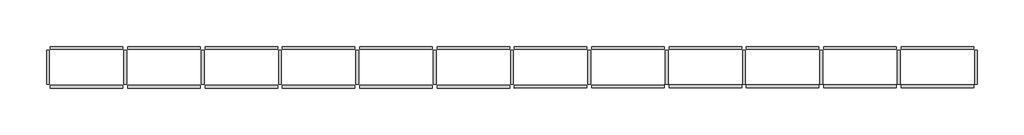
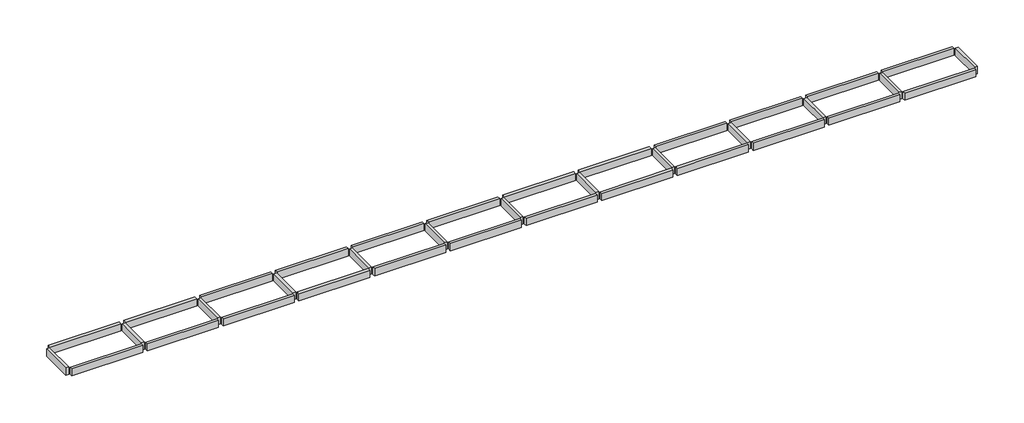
# One storey: 21 beams.
"""IFC4 building model written with IfcOpenShell, lengths in millimetres."""

import ifcopenshell
import ifcopenshell.guid

model = None  # the IFC model being written
_history = None  # IfcOwnerHistory: only IFC2X3 demands one
_inside = {}  # id of a spatial element -> (the spatial element, [elements in it])
_under = {}  # id of a project, library or spatial element -> (it, [spatial elements below it])
_declared = {}  # id of a project -> (the project, [libraries it declares])
_typed = {}  # id of a type object -> (the type object, [elements of that type])
_made_of = {}  # id of a material, layer set ... -> (it, [elements and type objects made of it])


def new_model(schema):
    """Start an empty IFC model of exactly this schema.

    Asked for "IFC4X3", IfcOpenShell would pick the latest addendum, in which some entities
    have other attributes; the version numbers below select the first issue.
    IFC2X3 requires an IfcOwnerHistory on every rooted entity: one is made here for all.
    """
    global model, _history
    if schema == "IFC4X3":
        model = ifcopenshell.file(schema_version=(4, 3, 0, 0))
    else:
        model = ifcopenshell.file(schema=schema)
    _inside.clear()
    _under.clear()
    _declared.clear()
    _typed.clear()
    _made_of.clear()
    _history = None
    if model.schema == "IFC2X3":
        org = make("IfcOrganization", Name="unknown")
        user = make(
            "IfcPersonAndOrganization",
            ThePerson=make("IfcPerson", FamilyName="unknown"),
            TheOrganization=org,
        )
        app = make(
            "IfcApplication",
            ApplicationDeveloper=org,
            Version="unknown",
            ApplicationFullName="unknown",
            ApplicationIdentifier="unknown",
        )
        _history = make(
            "IfcOwnerHistory",
            OwningUser=user,
            OwningApplication=app,
            ChangeAction="ADDED",
            CreationDate=0,
        )
    return model


def make(cls, **values):
    """One entity of the class cls with the attributes given. An attribute that is None is left unset."""
    return model.create_entity(
        cls, **{name: value for name, value in values.items() if value is not None}
    )


def rooted(cls, **values):
    """An entity with a GlobalId (a new one), such as an element, a storey or a relation."""
    return make(cls, GlobalId=ifcopenshell.guid.new(), OwnerHistory=_history, **values)


def si_unit(unit_type, name, prefix=None):
    """IfcSIUnit, for example si_unit("LENGTHUNIT", "METRE", prefix="MILLI")."""
    return make("IfcSIUnit", UnitType=unit_type, Prefix=prefix, Name=name)


def assignment(units):
    """IfcUnitAssignment: the units of a project."""
    return None if units is None else make("IfcUnitAssignment", Units=units)


def point(xyz):
    """IfcCartesianPoint."""
    return None if xyz is None else make("IfcCartesianPoint", Coordinates=xyz)


def direction(xyz):
    """IfcDirection."""
    return None if xyz is None else make("IfcDirection", DirectionRatios=xyz)


def frame(location, z_axis=None, x_axis=None):
    """IfcAxis2Placement3D, a coordinate frame: its origin and axes. An axis left out is left unset."""
    return make(
        "IfcAxis2Placement3D",
        Location=point(location),
        Axis=direction(z_axis),
        RefDirection=direction(x_axis),
    )


def origin():
    """The frame at (0, 0, 0) with its axes left unset."""
    return frame((0.0, 0.0, 0.0))


def place(relative_to, where):
    """IfcLocalPlacement: puts the frame where relative to a parent placement (None: the world)."""
    return make(
        "IfcLocalPlacement", PlacementRelTo=relative_to, RelativePlacement=where
    )


def context(
    kind, dimensions, precision=None, world=None, true_north=None, identifier=None
):
    """IfcGeometricRepresentationContext, for example the 3D "Model" context."""
    return make(
        "IfcGeometricRepresentationContext",
        ContextIdentifier=identifier,
        ContextType=kind,
        CoordinateSpaceDimension=dimensions,
        Precision=precision,
        WorldCoordinateSystem=world,
        TrueNorth=true_north,
    )


def project(units=None, contexts=None):
    """IfcProject with its units and contexts."""
    return rooted(
        "IfcProject",
        Name="project",
        RepresentationContexts=contexts,
        UnitsInContext=assignment(units),
    )


def spatial(cls, under=None, at=None, **own):
    """A site, building, storey or space (cls), placed at a placement, below another one or the project."""
    s = rooted(cls, ObjectPlacement=at, **own)
    if under is not None:
        _under.setdefault(under.id(), (under, []))[1].append(s)
    return s


def polyline(points):
    """IfcPolyline through the points."""
    return make("IfcPolyline", Points=[point(p) for p in points])


def outline(outer, holes=None, kind="AREA"):
    """IfcArbitraryClosedProfileDef: a profile drawn as a closed curve; with holes, ...WithVoids."""
    if holes is None:
        return make("IfcArbitraryClosedProfileDef", ProfileType=kind, OuterCurve=outer)
    return make(
        "IfcArbitraryProfileDefWithVoids",
        ProfileType=kind,
        OuterCurve=outer,
        InnerCurves=holes,
    )


def extrude(swept, where, along, depth):
    """IfcExtrudedAreaSolid: the profile swept, set in the frame where, extruded along a direction by depth."""
    return make(
        "IfcExtrudedAreaSolid",
        SweptArea=swept,
        Position=where,
        ExtrudedDirection=direction(along),
        Depth=depth,
    )


def shape(context_of_items, identifier, shape_type, items):
    """IfcShapeRepresentation: the items that make up one representation, for example the "Body"."""
    return make(
        "IfcShapeRepresentation",
        ContextOfItems=context_of_items,
        RepresentationIdentifier=identifier,
        RepresentationType=shape_type,
        Items=items,
    )


def made_of(thing, what):
    """Note that an element or type object is made of a material, layer set ...; save() writes the relation."""
    if what is not None:
        _made_of.setdefault(what.id(), (what, []))[1].append(thing)
    return thing


def element(
    cls,
    number,
    at=None,
    inside=None,
    cuts=None,
    type_object=None,
    material=None,
    context=None,
    identifier="Body",
    shape_type=None,
    held_by="IfcProductDefinitionShape",
    body=None,
    shapes=None,
    **own,
):
    """One element of the class cls, such as IfcWall. Its Tag is "e" and its number.

    at: its placement. inside: the storey or other place that contains it. cuts: it is an
    opening in that element (IfcRelVoidsElement). A single representation is given by context,
    identifier, shape_type and body (its items); several are given by shapes. held_by: the class
    of the entity that holds the representations. save() writes the other relations.
    """
    e = rooted(cls, Tag="e%d" % number, ObjectPlacement=at, **own)
    if body is not None:
        shapes = [shape(context, identifier, shape_type, body)]
    if shapes is not None:
        e.Representation = make(held_by, Representations=shapes)
    if inside is not None:
        _inside.setdefault(inside.id(), (inside, []))[1].append(e)
    if cuts is not None:
        rooted(
            "IfcRelVoidsElement", RelatingBuildingElement=cuts, RelatedOpeningElement=e
        )
    if type_object is not None:
        _typed.setdefault(type_object.id(), (type_object, []))[1].append(e)
    return made_of(e, material)


def aggregate(whole, parts):
    """IfcRelAggregates: a whole, such as a stair, and the parts it consists of."""
    return rooted("IfcRelAggregates", RelatingObject=whole, RelatedObjects=parts)


def save(model, path):
    """Write the relations noted so far, then the file.

    IfcRelAggregates (storeys below a building ...), IfcRelContainedInSpatialStructure (elements
    in a storey), IfcRelDefinesByType, IfcRelAssociatesMaterial and IfcRelDeclares: one each for
    every whole, place, type object, material and project.
    """
    for whole, parts in _under.values():
        aggregate(whole, parts)
    for where, things in _inside.values():
        rooted(
            "IfcRelContainedInSpatialStructure",
            RelatedElements=things,
            RelatingStructure=where,
        )
    for kind, things in _typed.values():
        rooted("IfcRelDefinesByType", RelatedObjects=things, RelatingType=kind)
    for what, things in _made_of.values():
        rooted("IfcRelAssociatesMaterial", RelatedObjects=things, RelatingMaterial=what)
    for by, libraries in _declared.values():
        rooted("IfcRelDeclares", RelatingContext=by, RelatedDefinitions=libraries)
    model.write(path)


model = new_model("IFC4")

# Units and contexts
model_context = context("Model", 3, world=origin())
ifc_project = project(units=[si_unit("LENGTHUNIT", "METRE", prefix="MILLI")], contexts=[model_context])

# Site, building, storey
site = spatial("IfcSite", under=ifc_project)
building = spatial("IfcBuilding", under=site)
storey = spatial("IfcBuildingStorey", under=building, Name="BALDRAME", Elevation=1500.0)

# Beams
placement = place(None, origin())
element("IfcBeam", 1, ObjectType="TQS - Viga retangular : 15,0 x 40,0", at=placement, inside=storey, context=model_context, shape_type="SweptSolid", body=[
    extrude(outline(polyline([(-3836.795675, -562.7982962), (-3986.795675, -562.7982962), (-3986.795675, 1187.2017038), (-3836.795675, 1187.2017038), (-3836.795675, -562.7982962)])), frame((0.0, 0.0, 1100.0), z_axis=(0.0, 0.0, 1.0), x_axis=(1.0, 0.0, 0.0)), (0.0, 0.0, 1.0), 400.0),
])
element("IfcBeam", 2, ObjectType="TQS - Viga retangular : 15,0 x 40,0", at=placement, inside=storey, context=model_context, shape_type="SweptSolid", body=[
    extrude(outline(polyline([(4213.204325, 1237.2017038), (4213.204325, 1387.2017038), (7963.204325, 1387.2017038), (7963.204325, 1237.2017038), (4213.204325, 1237.2017038)])), frame((0.0, 0.0, 1100.0), z_axis=(0.0, 0.0, 1.0), x_axis=(1.0, 0.0, 0.0)), (0.0, 0.0, 1.0), 400.0),
    extrude(outline(polyline([(-3786.795675, 1237.2017038), (-3786.795675, 1387.2017038), (-36.795675, 1387.2017038), (-36.795675, 1237.2017038), (-3786.795675, 1237.2017038)])), frame((0.0, 0.0, 1100.0), z_axis=(0.0, 0.0, 1.0), x_axis=(1.0, 0.0, 0.0)), (0.0, 0.0, 1.0), 400.0),
    extrude(outline(polyline([(213.204325, 1237.2017038), (213.204325, 1387.2017038), (3963.204325, 1387.2017038), (3963.204325, 1237.2017038), (213.204325, 1237.2017038)])), frame((0.0, 0.0, 1100.0), z_axis=(0.0, 0.0, 1.0), x_axis=(1.0, 0.0, 0.0)), (0.0, 0.0, 1.0), 400.0),
])
element("IfcBeam", 3, ObjectType="TQS - Viga retangular : 15,0 x 40,0", at=placement, inside=storey, context=model_context, shape_type="SweptSolid", body=[
    extrude(outline(polyline([(4213.204325, -762.7982962), (4213.204325, -612.7982962), (7963.204325, -612.7982962), (7963.204325, -762.7982962), (4213.204325, -762.7982962)])), frame((0.0, 0.0, 1100.0), z_axis=(0.0, 0.0, 1.0), x_axis=(1.0, 0.0, 0.0)), (0.0, 0.0, 1.0), 400.0),
    extrude(outline(polyline([(-3786.795675, -762.7982962), (-3786.795675, -612.7982962), (-36.795675, -612.7982962), (-36.795675, -762.7982962), (-3786.795675, -762.7982962)])), frame((0.0, 0.0, 1100.0), z_axis=(0.0, 0.0, 1.0), x_axis=(1.0, 0.0, 0.0)), (0.0, 0.0, 1.0), 400.0),
    extrude(outline(polyline([(213.204325, -762.7982962), (213.204325, -612.7982962), (3963.204325, -612.7982962), (3963.204325, -762.7982962), (213.204325, -762.7982962)])), frame((0.0, 0.0, 1100.0), z_axis=(0.0, 0.0, 1.0), x_axis=(1.0, 0.0, 0.0)), (0.0, 0.0, 1.0), 400.0),
])
element("IfcBeam", 4, ObjectType="TQS - Viga retangular : 15,0 x 40,0", at=placement, inside=storey, context=model_context, shape_type="SweptSolid", body=[
    extrude(outline(polyline([(163.204325, -562.7982962), (13.204325, -562.7982962), (13.204325, 1187.2017038), (163.204325, 1187.2017038), (163.204325, -562.7982962)])), frame((0.0, 0.0, 1100.0), z_axis=(0.0, 0.0, 1.0), x_axis=(1.0, 0.0, 0.0)), (0.0, 0.0, 1.0), 400.0),
])
element("IfcBeam", 5, ObjectType="TQS - Viga retangular : 15,0 x 40,0", at=placement, inside=storey, context=model_context, shape_type="SweptSolid", body=[
    extrude(outline(polyline([(4163.204325, -562.7982962), (4013.204325, -562.7982962), (4013.204325, 1187.2017038), (4163.204325, 1187.2017038), (4163.204325, -562.7982962)])), frame((0.0, 0.0, 1100.0), z_axis=(0.0, 0.0, 1.0), x_axis=(1.0, 0.0, 0.0)), (0.0, 0.0, 1.0), 400.0),
])
element("IfcBeam", 6, ObjectType="TQS - Viga retangular : 15,0 x 40,0", at=placement, inside=storey, context=model_context, shape_type="SweptSolid", body=[
    extrude(outline(polyline([(8163.204325, -562.7982962), (8013.204325, -562.7982962), (8013.204325, 1187.2017038), (8163.204325, 1187.2017038), (8163.204325, -562.7982962)])), frame((0.0, 0.0, 1100.0), z_axis=(0.0, 0.0, 1.0), x_axis=(1.0, 0.0, 0.0)), (0.0, 0.0, 1.0), 400.0),
])
element("IfcBeam", 7, ObjectType="TQS - Viga retangular : 15,0 x 40,0", at=placement, inside=storey, context=model_context, shape_type="SweptSolid", body=[
    extrude(outline(polyline([(16213.204325, 1237.2017038), (16213.204325, 1387.2017038), (19963.204325, 1387.2017038), (19963.204325, 1237.2017038), (16213.204325, 1237.2017038)])), frame((0.0, 0.0, 1100.0), z_axis=(0.0, 0.0, 1.0), x_axis=(1.0, 0.0, 0.0)), (0.0, 0.0, 1.0), 400.0),
    extrude(outline(polyline([(8213.204325, 1237.2017038), (8213.204325, 1387.2017038), (11963.204325, 1387.2017038), (11963.204325, 1237.2017038), (8213.204325, 1237.2017038)])), frame((0.0, 0.0, 1100.0), z_axis=(0.0, 0.0, 1.0), x_axis=(1.0, 0.0, 0.0)), (0.0, 0.0, 1.0), 400.0),
    extrude(outline(polyline([(12213.204325, 1237.2017038), (12213.204325, 1387.2017038), (15963.204325, 1387.2017038), (15963.204325, 1237.2017038), (12213.204325, 1237.2017038)])), frame((0.0, 0.0, 1100.0), z_axis=(0.0, 0.0, 1.0), x_axis=(1.0, 0.0, 0.0)), (0.0, 0.0, 1.0), 400.0),
])
element("IfcBeam", 8, ObjectType="TQS - Viga retangular : 15,0 x 40,0", at=placement, inside=storey, context=model_context, shape_type="SweptSolid", body=[
    extrude(outline(polyline([(16213.204325, -762.7982962), (16213.204325, -612.7982962), (19963.204325, -612.7982962), (19963.204325, -762.7982962), (16213.204325, -762.7982962)])), frame((0.0, 0.0, 1100.0), z_axis=(0.0, 0.0, 1.0), x_axis=(1.0, 0.0, 0.0)), (0.0, 0.0, 1.0), 400.0),
    extrude(outline(polyline([(8213.204325, -762.7982962), (8213.204325, -612.7982962), (11963.204325, -612.7982962), (11963.204325, -762.7982962), (8213.204325, -762.7982962)])), frame((0.0, 0.0, 1100.0), z_axis=(0.0, 0.0, 1.0), x_axis=(1.0, 0.0, 0.0)), (0.0, 0.0, 1.0), 400.0),
    extrude(outline(polyline([(12213.204325, -762.7982962), (12213.204325, -612.7982962), (15963.204325, -612.7982962), (15963.204325, -762.7982962), (12213.204325, -762.7982962)])), frame((0.0, 0.0, 1100.0), z_axis=(0.0, 0.0, 1.0), x_axis=(1.0, 0.0, 0.0)), (0.0, 0.0, 1.0), 400.0),
])
element("IfcBeam", 9, ObjectType="TQS - Viga retangular : 15,0 x 40,0", at=placement, inside=storey, context=model_context, shape_type="SweptSolid", body=[
    extrude(outline(polyline([(12163.204325, -562.7982962), (12013.204325, -562.7982962), (12013.204325, 1187.2017038), (12163.204325, 1187.2017038), (12163.204325, -562.7982962)])), frame((0.0, 0.0, 1100.0), z_axis=(0.0, 0.0, 1.0), x_axis=(1.0, 0.0, 0.0)), (0.0, 0.0, 1.0), 400.0),
])
element("IfcBeam", 10, ObjectType="TQS - Viga retangular : 15,0 x 40,0", at=placement, inside=storey, context=model_context, shape_type="SweptSolid", body=[
    extrude(outline(polyline([(16163.204325, -562.7982962), (16013.204325, -562.7982962), (16013.204325, 1187.2017038), (16163.204325, 1187.2017038), (16163.204325, -562.7982962)])), frame((0.0, 0.0, 1100.0), z_axis=(0.0, 0.0, 1.0), x_axis=(1.0, 0.0, 0.0)), (0.0, 0.0, 1.0), 400.0),
])
element("IfcBeam", 11, ObjectType="TQS - Viga retangular : 15,0 x 40,0", at=placement, inside=storey, context=model_context, shape_type="SweptSolid", body=[
    extrude(outline(polyline([(20163.204325, -562.7982962), (20013.204325, -562.7982962), (20013.204325, 1187.2017038), (20163.204325, 1187.2017038), (20163.204325, -562.7982962)])), frame((0.0, 0.0, 1100.0), z_axis=(0.0, 0.0, 1.0), x_axis=(1.0, 0.0, 0.0)), (0.0, 0.0, 1.0), 400.0),
])
element("IfcBeam", 12, ObjectType="TQS - Viga retangular : 15,0 x 40,0", at=placement, inside=storey, context=model_context, shape_type="SweptSolid", body=[
    extrude(outline(polyline([(28213.204325, 1237.2017038), (28213.204325, 1387.2017038), (31963.204325, 1387.2017038), (31963.204325, 1237.2017038), (28213.204325, 1237.2017038)])), frame((0.0, 0.0, 1100.0), z_axis=(0.0, 0.0, 1.0), x_axis=(1.0, 0.0, 0.0)), (0.0, 0.0, 1.0), 400.0),
    extrude(outline(polyline([(20213.204325, 1237.2017038), (20213.204325, 1387.2017038), (23963.204325, 1387.2017038), (23963.204325, 1237.2017038), (20213.204325, 1237.2017038)])), frame((0.0, 0.0, 1100.0), z_axis=(0.0, 0.0, 1.0), x_axis=(1.0, 0.0, 0.0)), (0.0, 0.0, 1.0), 400.0),
    extrude(outline(polyline([(24213.204325, 1237.2017038), (24213.204325, 1387.2017038), (27963.204325, 1387.2017038), (27963.204325, 1237.2017038), (24213.204325, 1237.2017038)])), frame((0.0, 0.0, 1100.0), z_axis=(0.0, 0.0, 1.0), x_axis=(1.0, 0.0, 0.0)), (0.0, 0.0, 1.0), 400.0),
])
element("IfcBeam", 13, ObjectType="TQS - Viga retangular : 15,0 x 40,0", at=placement, inside=storey, context=model_context, shape_type="SweptSolid", body=[
    extrude(outline(polyline([(28213.204325, -750.1030753), (28213.204325, -600.1028921), (31963.204325, -594.2435171), (31963.204325, -744.2437003), (28213.204325, -750.1030753)])), frame((0.0, 0.0, 1100.0), z_axis=(0.0, 0.0, 1.0), x_axis=(1.0, 0.0, 0.0)), (0.0, 0.0, 1.0), 400.0),
    extrude(outline(polyline([(20213.204325, -762.6030753), (20213.204325, -612.6028921), (23963.204325, -606.7435171), (23963.204325, -756.7437003), (20213.204325, -762.6030753)])), frame((0.0, 0.0, 1100.0), z_axis=(0.0, 0.0, 1.0), x_axis=(1.0, 0.0, 0.0)), (0.0, 0.0, 1.0), 400.0),
    extrude(outline(polyline([(24213.204325, -756.3530753), (24213.204325, -606.3528921), (27963.204325, -600.4935171), (27963.204325, -750.4937003), (24213.204325, -756.3530753)])), frame((0.0, 0.0, 1100.0), z_axis=(0.0, 0.0, 1.0), x_axis=(1.0, 0.0, 0.0)), (0.0, 0.0, 1.0), 400.0),
])
element("IfcBeam", 14, ObjectType="TQS - Viga retangular : 15,0 x 40,0", at=placement, inside=storey, context=model_context, shape_type="SweptSolid", body=[
    extrude(outline(polyline([(24163.204325, -562.7982962), (24013.204325, -562.7982962), (24013.204325, 1187.2017038), (24163.204325, 1187.2017038), (24163.204325, -562.7982962)])), frame((0.0, 0.0, 1100.0), z_axis=(0.0, 0.0, 1.0), x_axis=(1.0, 0.0, 0.0)), (0.0, 0.0, 1.0), 400.0),
])
element("IfcBeam", 15, ObjectType="TQS - Viga retangular : 15,0 x 40,0", at=placement, inside=storey, context=model_context, shape_type="SweptSolid", body=[
    extrude(outline(polyline([(28163.204325, -562.7982962), (28013.204325, -562.7982962), (28013.204325, 1187.2017038), (28163.204325, 1187.2017038), (28163.204325, -562.7982962)])), frame((0.0, 0.0, 1100.0), z_axis=(0.0, 0.0, 1.0), x_axis=(1.0, 0.0, 0.0)), (0.0, 0.0, 1.0), 400.0),
])
element("IfcBeam", 16, ObjectType="TQS - Viga retangular : 15,0 x 40,0", at=placement, inside=storey, context=model_context, shape_type="SweptSolid", body=[
    extrude(outline(polyline([(32163.204325, -562.7982962), (32013.204325, -562.7982962), (32013.204325, 1187.2017038), (32163.204325, 1187.2017038), (32163.204325, -562.7982962)])), frame((0.0, 0.0, 1100.0), z_axis=(0.0, 0.0, 1.0), x_axis=(1.0, 0.0, 0.0)), (0.0, 0.0, 1.0), 400.0),
])
element("IfcBeam", 17, ObjectType="TQS - Viga retangular : 15,0 x 40,0", at=placement, inside=storey, context=model_context, shape_type="SweptSolid", body=[
    extrude(outline(polyline([(40213.204325, 1237.2017038), (40213.204325, 1387.2017038), (43963.204325, 1387.2017038), (43963.204325, 1237.2017038), (40213.204325, 1237.2017038)])), frame((0.0, 0.0, 1100.0), z_axis=(0.0, 0.0, 1.0), x_axis=(1.0, 0.0, 0.0)), (0.0, 0.0, 1.0), 400.0),
    extrude(outline(polyline([(32213.204325, 1237.2017038), (32213.204325, 1387.2017038), (35963.204325, 1387.2017038), (35963.204325, 1237.2017038), (32213.204325, 1237.2017038)])), frame((0.0, 0.0, 1100.0), z_axis=(0.0, 0.0, 1.0), x_axis=(1.0, 0.0, 0.0)), (0.0, 0.0, 1.0), 400.0),
    extrude(outline(polyline([(36213.204325, 1237.2017038), (36213.204325, 1387.2017038), (39963.204325, 1387.2017038), (39963.204325, 1237.2017038), (36213.204325, 1237.2017038)])), frame((0.0, 0.0, 1100.0), z_axis=(0.0, 0.0, 1.0), x_axis=(1.0, 0.0, 0.0)), (0.0, 0.0, 1.0), 400.0),
])
element("IfcBeam", 18, ObjectType="TQS - Viga retangular : 15,0 x 40,0", at=placement, inside=storey, context=model_context, shape_type="SweptSolid", body=[
    extrude(outline(polyline([(40213.204325, -744.0482962), (40213.204325, -594.0482962), (43963.204325, -594.0482962), (43963.204325, -744.0482962), (40213.204325, -744.0482962)])), frame((0.0, 0.0, 1100.0), z_axis=(0.0, 0.0, 1.0), x_axis=(1.0, 0.0, 0.0)), (0.0, 0.0, 1.0), 400.0),
    extrude(outline(polyline([(32213.204325, -744.0482962), (32213.204325, -594.0482962), (35963.204325, -594.0482962), (35963.204325, -744.0482962), (32213.204325, -744.0482962)])), frame((0.0, 0.0, 1100.0), z_axis=(0.0, 0.0, 1.0), x_axis=(1.0, 0.0, 0.0)), (0.0, 0.0, 1.0), 400.0),
    extrude(outline(polyline([(36213.204325, -744.0482962), (36213.204325, -594.0482962), (39963.204325, -594.0482962), (39963.204325, -744.0482962), (36213.204325, -744.0482962)])), frame((0.0, 0.0, 1100.0), z_axis=(0.0, 0.0, 1.0), x_axis=(1.0, 0.0, 0.0)), (0.0, 0.0, 1.0), 400.0),
])
element("IfcBeam", 19, ObjectType="TQS - Viga retangular : 15,0 x 40,0", at=placement, inside=storey, context=model_context, shape_type="SweptSolid", body=[
    extrude(outline(polyline([(36163.204325, -562.7982962), (36013.204325, -562.7982962), (36013.204325, 1187.2017038), (36163.204325, 1187.2017038), (36163.204325, -562.7982962)])), frame((0.0, 0.0, 1100.0), z_axis=(0.0, 0.0, 1.0), x_axis=(1.0, 0.0, 0.0)), (0.0, 0.0, 1.0), 400.0),
])
element("IfcBeam", 20, ObjectType="TQS - Viga retangular : 15,0 x 40,0", at=placement, inside=storey, context=model_context, shape_type="SweptSolid", body=[
    extrude(outline(polyline([(40163.204325, -562.7982962), (40013.204325, -562.7982962), (40013.204325, 1187.2017038), (40163.204325, 1187.2017038), (40163.204325, -562.7982962)])), frame((0.0, 0.0, 1100.0), z_axis=(0.0, 0.0, 1.0), x_axis=(1.0, 0.0, 0.0)), (0.0, 0.0, 1.0), 400.0),
])
element("IfcBeam", 21, ObjectType="TQS - Viga retangular : 15,0 x 40,0", at=placement, inside=storey, context=model_context, shape_type="SweptSolid", body=[
    extrude(outline(polyline([(44163.204325, -562.7982962), (44013.204325, -562.7982962), (44013.204325, 1187.2017038), (44163.204325, 1187.2017038), (44163.204325, -562.7982962)])), frame((0.0, 0.0, 1100.0), z_axis=(0.0, 0.0, 1.0), x_axis=(1.0, 0.0, 0.0)), (0.0, 0.0, 1.0), 400.0),
])

save(model, "model.ifc")
